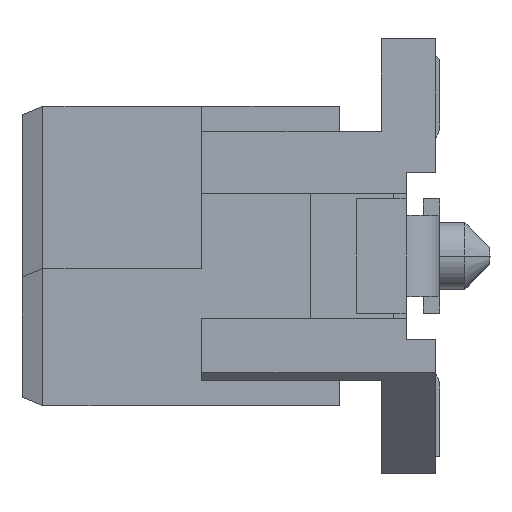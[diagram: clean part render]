
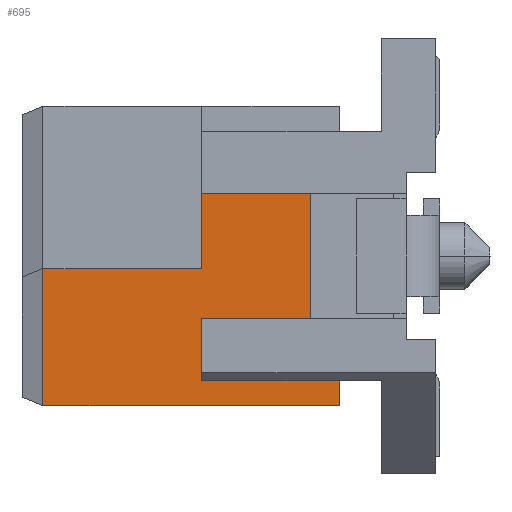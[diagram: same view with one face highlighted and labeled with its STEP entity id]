
A CAD part, left-side view. The second image highlights one B-rep face of the part: STEP entity #695.
In plain terms, the highlighted planar face has unit normal (-1, 0, 0).
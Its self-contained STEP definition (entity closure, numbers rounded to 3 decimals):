
#695=ADVANCED_FACE('',(#1777),#1194,.F.);
#1194=PLANE('',#13082);
#1777=FACE_OUTER_BOUND('',#2391,.T.);
#2391=EDGE_LOOP('',(#5464,#5465,#5466,#5467,#5468,#5469,#5470,#5471,#5472,
#5473));
#5464=ORIENTED_EDGE('',*,*,#8231,.T.);
#5465=ORIENTED_EDGE('',*,*,#8153,.T.);
#5466=ORIENTED_EDGE('',*,*,#8113,.F.);
#5467=ORIENTED_EDGE('',*,*,#8325,.F.);
#5468=ORIENTED_EDGE('',*,*,#8319,.T.);
#5469=ORIENTED_EDGE('',*,*,#8318,.T.);
#5470=ORIENTED_EDGE('',*,*,#8314,.F.);
#5471=ORIENTED_EDGE('',*,*,#8323,.F.);
#5472=ORIENTED_EDGE('',*,*,#8085,.F.);
#5473=ORIENTED_EDGE('',*,*,#8070,.T.);
#6578=VERTEX_POINT('',#18794);
#6579=VERTEX_POINT('',#18796);
#6589=VERTEX_POINT('',#18826);
#6607=VERTEX_POINT('',#18881);
#6608=VERTEX_POINT('',#18883);
#6634=VERTEX_POINT('',#18962);
#6738=VERTEX_POINT('',#19275);
#6739=VERTEX_POINT('',#19277);
#6740=VERTEX_POINT('',#19281);
#6741=VERTEX_POINT('',#19286);
#8070=EDGE_CURVE('',#6579,#6578,#10350,.T.);
#8085=EDGE_CURVE('',#6579,#6589,#10365,.T.);
#8113=EDGE_CURVE('',#6607,#6608,#10393,.T.);
#8153=EDGE_CURVE('',#6634,#6608,#10433,.T.);
#8231=EDGE_CURVE('',#6578,#6634,#10511,.T.);
#8314=EDGE_CURVE('',#6738,#6739,#10594,.T.);
#8318=EDGE_CURVE('',#6740,#6739,#10598,.T.);
#8319=EDGE_CURVE('',#6741,#6740,#10599,.T.);
#8323=EDGE_CURVE('',#6589,#6738,#10603,.T.);
#8325=EDGE_CURVE('',#6741,#6607,#10605,.T.);
#10350=LINE('',#18795,#11907);
#10365=LINE('',#18825,#11922);
#10393=LINE('',#18882,#11950);
#10433=LINE('',#18961,#11990);
#10511=LINE('',#19111,#12068);
#10594=LINE('',#19276,#12151);
#10598=LINE('',#19283,#12155);
#10599=LINE('',#19285,#12156);
#10603=LINE('',#19292,#12160);
#10605=LINE('',#19295,#12162);
#11907=VECTOR('',#15426,1.);
#11922=VECTOR('',#15451,1.);
#11950=VECTOR('',#15499,1.);
#11990=VECTOR('',#15565,1.);
#12068=VECTOR('',#15695,1.);
#12151=VECTOR('',#15824,1.);
#12155=VECTOR('',#15830,1.);
#12156=VECTOR('',#15833,1.);
#12160=VECTOR('',#15839,1.);
#12162=VECTOR('',#15843,1.);
#13082=AXIS2_PLACEMENT_3D('',#19563,#16088,#16089);
#15426=DIRECTION('',(0.,0.,-1.));
#15451=DIRECTION('',(0.,-1.,0.));
#15499=DIRECTION('',(0.,-1.,0.));
#15565=DIRECTION('',(0.,0.,1.));
#15695=DIRECTION('',(0.,-1.,0.));
#15824=DIRECTION('',(0.,-1.,0.));
#15830=DIRECTION('',(0.,0.,1.));
#15833=DIRECTION('',(0.,-1.,0.));
#15839=DIRECTION('',(0.,0.,1.));
#15843=DIRECTION('',(0.,0.,-1.));
#16088=DIRECTION('',(1.,0.,0.));
#16089=DIRECTION('',(0.,1.,0.));
#18794=CARTESIAN_POINT('',(-5.065,3.25,-1.79));
#18795=CARTESIAN_POINT('',(-5.065,3.25,-0.15));
#18796=CARTESIAN_POINT('',(-5.065,3.25,-0.15));
#18825=CARTESIAN_POINT('',(-5.065,3.25,-0.15));
#18826=CARTESIAN_POINT('',(-5.065,1.35,-0.15));
#18881=CARTESIAN_POINT('',(-5.065,1.35,-1.49));
#18882=CARTESIAN_POINT('',(-5.065,1.35,-1.49));
#18883=CARTESIAN_POINT('',(-5.065,-0.3,-1.49));
#18961=CARTESIAN_POINT('',(-5.065,-0.3,-1.79));
#18962=CARTESIAN_POINT('',(-5.065,-0.3,-1.79));
#19111=CARTESIAN_POINT('',(-5.065,3.25,-1.79));
#19275=CARTESIAN_POINT('',(-5.065,1.35,1.));
#19276=CARTESIAN_POINT('',(-5.065,1.35,1.));
#19277=CARTESIAN_POINT('',(-5.065,0.05,1.));
#19281=CARTESIAN_POINT('',(-5.065,0.05,-1.));
#19283=CARTESIAN_POINT('',(-5.065,0.05,-1.));
#19285=CARTESIAN_POINT('',(-5.065,1.35,-1.));
#19286=CARTESIAN_POINT('',(-5.065,1.35,-1.));
#19292=CARTESIAN_POINT('',(-5.065,1.35,-0.15));
#19295=CARTESIAN_POINT('',(-5.065,1.35,-1.));
#19563=CARTESIAN_POINT('',(-5.065,3.5,1.79));
